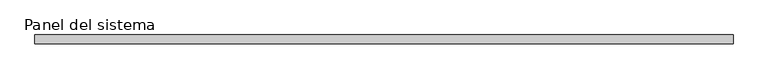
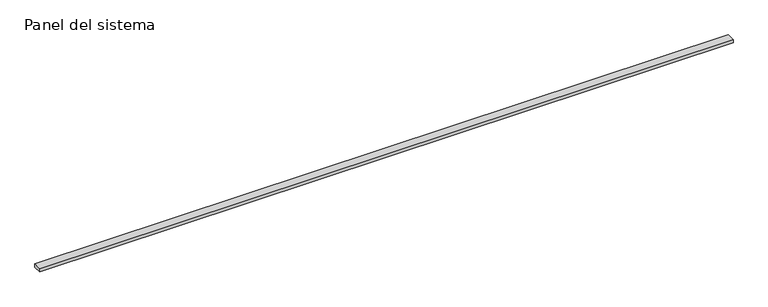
"""IFC4 building model written with IfcOpenShell, lengths in millimetres: plate geometry, Panel del sistema : HIANSA - CHAPA PERFILADA CUBIERTA - MT53MA6 Hor."""

from ifc_helpers import new_model, si_unit, origin, origin_with_axes, place, context, project, spatial, polyline, outline, extrude, source, transform, mapped, element, save


def panel_del_sistema_b48b2a53(model_context):
    return source(origin(), model_context, "Body", "SweptSolid", [
        extrude(outline(polyline([(2128.0, -52.5), (-2128.0, -52.5), (-2128.0, 0.5), (2128.0, 0.5), (2128.0, -52.5)])), origin_with_axes(), (0.0, 0.0, 1.0), 20.0),
    ])


if __name__ == "__main__":
    model = new_model("IFC4")
    model_context = context("Model", 3, world=origin())
    ifc_project = project(units=[si_unit("LENGTHUNIT", "METRE", prefix="MILLI")], contexts=[model_context])
    site = spatial("IfcSite", under=ifc_project)
    building = spatial("IfcBuilding", under=site)
    placement = place(None, origin())
    panel_del_sistema_shape = panel_del_sistema_b48b2a53(model_context)
    element("IfcPlate", 1, ObjectType="Panel del sistema : HIANSA - CHAPA PERFILADA CUBIERTA - MT53MA6 Hor", at=placement, inside=building, context=model_context, shape_type="MappedRepresentation", body=[
        mapped(panel_del_sistema_shape, transform((0.0, 0.0, 0.0), x_axis=(1.0, 0.0, 0.0), y_axis=(0.0, 1.0, 0.0), z_axis=(0.0, 0.0, 1.0))),
    ])
    save(model, "model.ifc")
